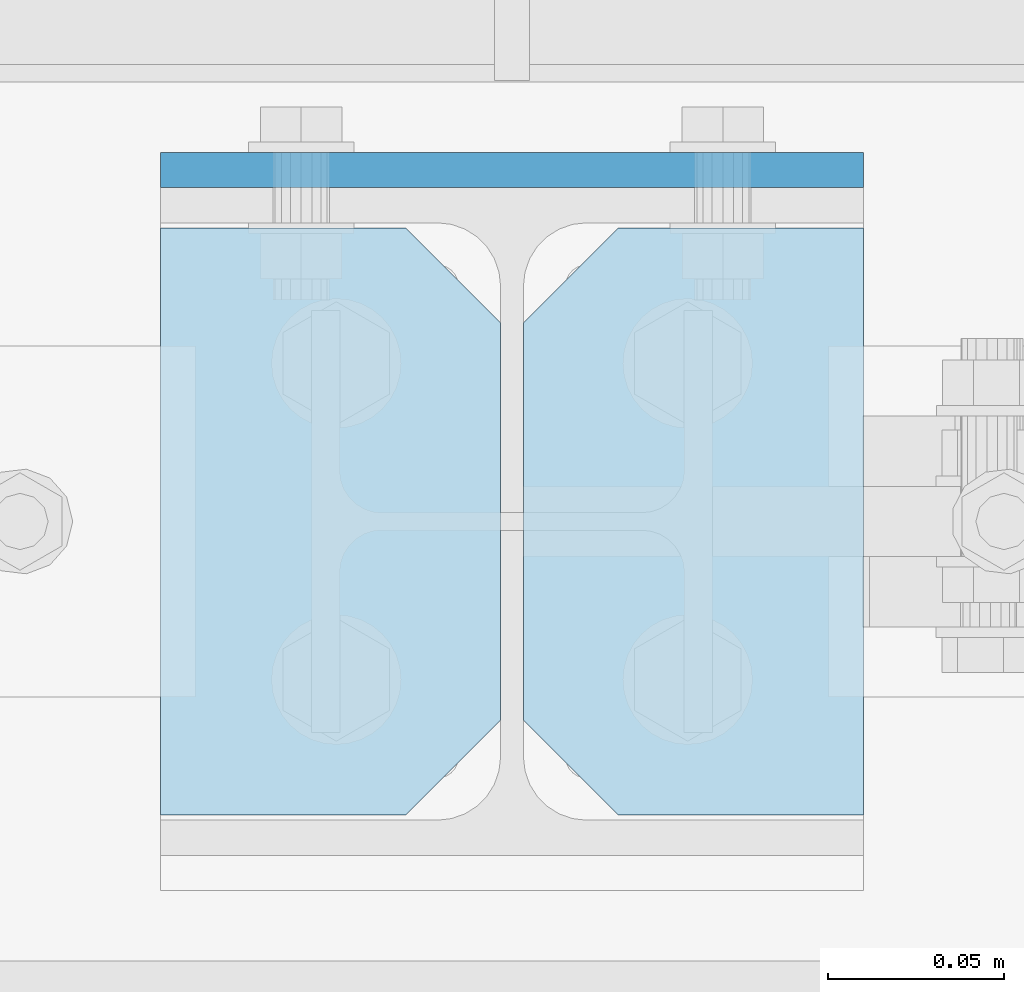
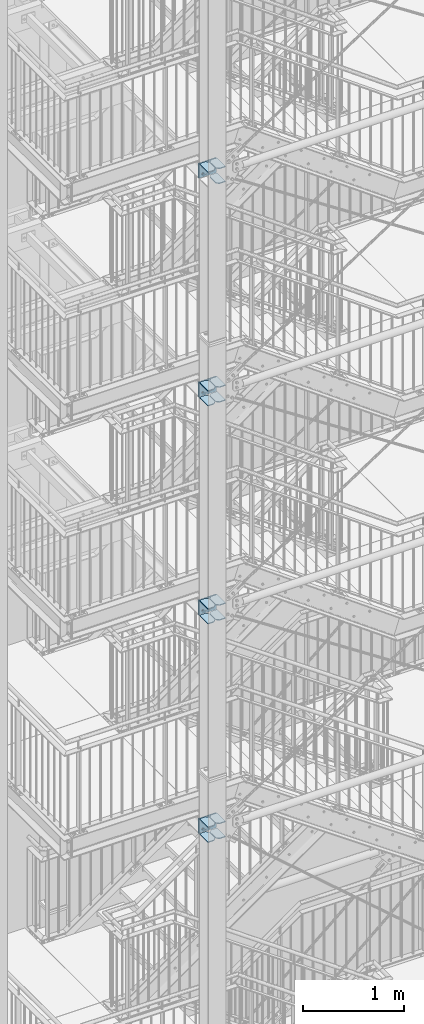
# One storey, part 150 of 825: 19 plates, 62 openings.
"""IFC2X3 building model written with IfcOpenShell, lengths in millimetres."""

from ifc_helpers import new_model, entity, si_unit, converted_unit, frame, origin, origin_with_axes, origin_2d_with_axis, place, context, project, spatial, polyline, circle, outline, extrude, material, layer, layer_set, element, save


model = new_model("IFC2X3")

# Units and contexts
model_context = context("Model", 3, precision=1e-09, world=origin_with_axes())
ifc_project = project(units=[si_unit("LENGTHUNIT", "METRE", prefix="MILLI"), si_unit("AREAUNIT", "SQUARE_METRE"), si_unit("VOLUMEUNIT", "CUBIC_METRE"), converted_unit("PLANEANGLEUNIT", "DEGREE", entity("IfcPlaneAngleMeasure", 0.01745329), si_unit("PLANEANGLEUNIT", "RADIAN"), dimensions=[0, 0, 0, 0, 0, 0, 0])], contexts=[model_context])

# Site, building, storey
site_placement = place(None, origin_with_axes())
site = spatial("IfcSite", under=ifc_project, at=site_placement, Name="Cnopf'sche Kinderklinik", CompositionType="ELEMENT")
building_placement = place(site_placement, origin_with_axes())
building = spatial("IfcBuilding", under=site, at=building_placement, Name="Struktur 1", CompositionType="ELEMENT")
storey_placement = place(building_placement, origin_with_axes())
storey = spatial("IfcBuildingStorey", under=building, at=storey_placement, Name="Default Storey", CompositionType="ELEMENT", Elevation=0.0)

# Plate, openings
ifc_material = material(Name="S235JR")
ifc_layer = layer(ifc_material, 10.0)
ifc_layer_set = layer_set([ifc_layer], Name="S235JR")
plate_1_placement = place(None, frame((4856.713402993, 4471.736971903, 6985.0), z_axis=(0.0, -1.0, 0.0), x_axis=(0.0, 0.0, -1.0)))
plate_1 = element("IfcPlate", 1, at=plate_1_placement, inside=storey, material=ifc_layer_set, Name="Endplate", ObjectType="Endplate", context=model_context, shape_type="SweptSolid", body=[
    extrude(outline(polyline([(-90.0, -100.0), (90.0, -100.0), (90.0, 100.0), (-90.0, 100.0), (-90.0, -100.0)])), origin_with_axes(), (0.0, 0.0, 1.0), 10.0),
])
opening_1_placement = place(plate_1_placement, frame((-67.0, -21.25, 10.5), z_axis=(0.0, 0.0, -1.0), x_axis=(1.0, 0.0, 0.0)))
element("IfcOpeningElement", 2, at=opening_1_placement, cuts=plate_1, ObjectType="Opening", context=model_context, shape_type="SweptSolid", body=[
    extrude(circle(Radius=6.001, at=origin_2d_with_axis()), origin(), (0.0, 0.0, 1.0), 11.0),
])
opening_2_placement = place(plate_1_placement, frame((67.0, -21.25, 10.5), z_axis=(0.0, 0.0, -1.0), x_axis=(1.0, 0.0, 0.0)))
element("IfcOpeningElement", 3, at=opening_2_placement, cuts=plate_1, ObjectType="Opening", context=model_context, shape_type="SweptSolid", body=[
    extrude(circle(Radius=6.001, at=origin_2d_with_axis()), origin(), (0.0, 0.0, 1.0), 11.0),
])
opening_3_placement = place(plate_1_placement, frame((67.0, 21.25, 10.5), z_axis=(0.0, 0.0, -1.0), x_axis=(1.0, 0.0, 0.0)))
element("IfcOpeningElement", 4, at=opening_3_placement, cuts=plate_1, ObjectType="Opening", context=model_context, shape_type="SweptSolid", body=[
    extrude(circle(Radius=6.001, at=origin_2d_with_axis()), origin(), (0.0, 0.0, 1.0), 11.0),
])
opening_4_placement = place(plate_1_placement, frame((-67.0, 21.25, 10.5), z_axis=(0.0, 0.0, -1.0), x_axis=(1.0, 0.0, 0.0)))
element("IfcOpeningElement", 5, at=opening_4_placement, cuts=plate_1, ObjectType="Opening", context=model_context, shape_type="SweptSolid", body=[
    extrude(circle(Radius=6.001, at=origin_2d_with_axis()), origin(), (0.0, 0.0, 1.0), 11.0),
])
opening_5_placement = place(plate_1_placement, frame((-45.0, 60.0, 10.5), z_axis=(0.0, 0.0, -1.0), x_axis=(0.0, 1.0, 0.0)))
element("IfcOpeningElement", 6, at=opening_5_placement, cuts=plate_1, ObjectType="Opening", context=model_context, shape_type="SweptSolid", body=[
    extrude(circle(Radius=9.001, at=origin_2d_with_axis()), origin(), (0.0, 0.0, 1.0), 11.0),
])
opening_6_placement = place(plate_1_placement, frame((45.0, 60.0, 10.5), z_axis=(0.0, 0.0, -1.0), x_axis=(0.0, 1.0, 0.0)))
element("IfcOpeningElement", 7, at=opening_6_placement, cuts=plate_1, ObjectType="Opening", context=model_context, shape_type="SweptSolid", body=[
    extrude(circle(Radius=9.001, at=origin_2d_with_axis()), origin(), (0.0, 0.0, 1.0), 11.0),
])
opening_7_placement = place(plate_1_placement, frame((-45.0, -60.0, 10.5), z_axis=(0.0, 0.0, -1.0), x_axis=(0.0, -1.0, 0.0)))
element("IfcOpeningElement", 8, at=opening_7_placement, cuts=plate_1, ObjectType="Opening", context=model_context, shape_type="SweptSolid", body=[
    extrude(circle(Radius=9.001, at=origin_2d_with_axis()), origin(), (0.0, 0.0, 1.0), 11.0),
])
opening_8_placement = place(plate_1_placement, frame((45.0, -60.0, 10.5), z_axis=(0.0, 0.0, -1.0), x_axis=(0.0, -1.0, 0.0)))
element("IfcOpeningElement", 9, at=opening_8_placement, cuts=plate_1, ObjectType="Opening", context=model_context, shape_type="SweptSolid", body=[
    extrude(circle(Radius=9.001, at=origin_2d_with_axis()), origin(), (0.0, 0.0, 1.0), 11.0),
])

plate_2_placement = place(None, frame((4956.713402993, 4450.236971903, 7070.0), z_axis=(0.0, 0.0, 1.0), x_axis=(-1.0, 0.0, 0.0)))
plate_2 = element("IfcPlate", 10, at=plate_2_placement, inside=storey, material=ifc_layer_set, Name="Stiffener#1", ObjectType="Stiffener#1", context=model_context, shape_type="SweptSolid", body=[
    extrude(outline(polyline([(0.0, 0.0), (96.75, 0.0), (96.75, 167.0), (0.0, 167.0), (0.0, 0.0)])), origin_with_axes(), (0.0, 0.0, 1.0), 10.0),
])
opening_9_placement = place(plate_2_placement, frame((0.0, 0.0, -0.01), z_axis=(0.0, 0.0, 1.0), x_axis=(1.0, 0.0, 0.0)))
element("IfcOpeningElement", 11, at=opening_9_placement, cuts=plate_2, ObjectType="Opening", context=model_context, shape_type="SweptSolid", body=[
    extrude(outline(polyline([(96.75, 167.0), (69.75, 167.0), (96.75, 140.0), (96.75, 167.0)])), origin(), (0.0, 0.0, 1.0), 10.02),
])
opening_10_placement = place(plate_2_placement, frame((0.0, 0.0, -0.01), z_axis=(0.0, 0.0, 1.0), x_axis=(1.0, 0.0, 0.0)))
element("IfcOpeningElement", 12, at=opening_10_placement, cuts=plate_2, ObjectType="Opening", context=model_context, shape_type="SweptSolid", body=[
    extrude(outline(polyline([(96.75, 0.0), (96.75, 27.0), (69.75, 0.0), (96.75, 0.0)])), origin(), (0.0, 0.0, 1.0), 10.02),
])

plate_3_placement = place(None, frame((4853.463402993, 4450.236971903, 7070.0), z_axis=(0.0, 0.0, 1.0), x_axis=(-1.0, 0.0, 0.0)))
plate_3 = element("IfcPlate", 13, at=plate_3_placement, inside=storey, material=ifc_layer_set, Name="Stiffener#2", ObjectType="Stiffener#2", context=model_context, shape_type="SweptSolid", body=[
    extrude(outline(polyline([(0.0, 0.0), (96.75, 0.0), (96.75, 167.0), (0.0, 167.0), (0.0, 0.0)])), origin_with_axes(), (0.0, 0.0, 1.0), 10.0),
])
opening_11_placement = place(plate_3_placement, frame((0.0, 0.0, -0.01), z_axis=(0.0, 0.0, 1.0), x_axis=(1.0, 0.0, 0.0)))
element("IfcOpeningElement", 14, at=opening_11_placement, cuts=plate_3, ObjectType="Opening", context=model_context, shape_type="SweptSolid", body=[
    extrude(outline(polyline([(0.0, 167.0), (0.0, 140.0), (27.0, 167.0), (0.0, 167.0)])), origin(), (0.0, 0.0, 1.0), 10.02),
])
opening_12_placement = place(plate_3_placement, frame((0.0, 0.0, -0.01), z_axis=(0.0, 0.0, 1.0), x_axis=(1.0, 0.0, 0.0)))
element("IfcOpeningElement", 15, at=opening_12_placement, cuts=plate_3, ObjectType="Opening", context=model_context, shape_type="SweptSolid", body=[
    extrude(outline(polyline([(0.0, 0.0), (27.0, 0.0), (0.0, 27.0), (0.0, 0.0)])), origin(), (0.0, 0.0, 1.0), 10.02),
])

plate_4_placement = place(None, frame((4859.963402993, 4450.236971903, 6900.0), z_axis=(0.0, 0.0, -1.0), x_axis=(1.0, 0.0, 0.0)))
plate_4 = element("IfcPlate", 16, at=plate_4_placement, inside=storey, material=ifc_layer_set, Name="Stiffener#3", ObjectType="Stiffener#3", context=model_context, shape_type="SweptSolid", body=[
    extrude(outline(polyline([(0.0, 0.0), (96.75, 0.0), (96.75, 167.0), (0.0, 167.0), (0.0, 0.0)])), origin_with_axes(), (0.0, 0.0, 1.0), 10.0),
])
opening_13_placement = place(plate_4_placement, frame((0.0, 0.0, -0.01), z_axis=(0.0, 0.0, 1.0), x_axis=(1.0, 0.0, 0.0)))
element("IfcOpeningElement", 17, at=opening_13_placement, cuts=plate_4, ObjectType="Opening", context=model_context, shape_type="SweptSolid", body=[
    extrude(outline(polyline([(0.0, 167.0), (0.0, 140.0), (27.0, 167.0), (0.0, 167.0)])), origin(), (0.0, 0.0, 1.0), 10.02),
])
opening_14_placement = place(plate_4_placement, frame((0.0, 0.0, -0.01), z_axis=(0.0, 0.0, 1.0), x_axis=(1.0, 0.0, 0.0)))
element("IfcOpeningElement", 18, at=opening_14_placement, cuts=plate_4, ObjectType="Opening", context=model_context, shape_type="SweptSolid", body=[
    extrude(outline(polyline([(0.0, 0.0), (27.0, 0.0), (0.0, 27.0), (0.0, 0.0)])), origin(), (0.0, 0.0, 1.0), 10.02),
])

plate_5_placement = place(None, frame((4756.713402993, 4450.236971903, 6900.0), z_axis=(0.0, 0.0, -1.0), x_axis=(1.0, 0.0, 0.0)))
plate_5 = element("IfcPlate", 19, at=plate_5_placement, inside=storey, material=ifc_layer_set, Name="Stiffener#4", ObjectType="Stiffener#4", context=model_context, shape_type="SweptSolid", body=[
    extrude(outline(polyline([(0.0, 0.0), (96.75, 0.0), (96.75, 167.0), (0.0, 167.0), (0.0, 0.0)])), origin_with_axes(), (0.0, 0.0, 1.0), 10.0),
])
opening_15_placement = place(plate_5_placement, frame((0.0, 0.0, -0.01), z_axis=(0.0, 0.0, 1.0), x_axis=(1.0, 0.0, 0.0)))
element("IfcOpeningElement", 20, at=opening_15_placement, cuts=plate_5, ObjectType="Opening", context=model_context, shape_type="SweptSolid", body=[
    extrude(outline(polyline([(96.75, 167.0), (69.75, 167.0), (96.75, 140.0), (96.75, 167.0)])), origin(), (0.0, 0.0, 1.0), 10.02),
])
opening_16_placement = place(plate_5_placement, frame((0.0, 0.0, -0.01), z_axis=(0.0, 0.0, 1.0), x_axis=(1.0, 0.0, 0.0)))
element("IfcOpeningElement", 21, at=opening_16_placement, cuts=plate_5, ObjectType="Opening", context=model_context, shape_type="SweptSolid", body=[
    extrude(outline(polyline([(96.75, 0.0), (96.75, 27.0), (69.75, 0.0), (96.75, 0.0)])), origin(), (0.0, 0.0, 1.0), 10.02),
])

plate_6_placement = place(None, frame((4856.713402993, 4471.736971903, 9617.0), z_axis=(0.0, -1.0, 0.0), x_axis=(0.0, 0.0, -1.0)))
plate_6 = element("IfcPlate", 22, at=plate_6_placement, inside=storey, material=ifc_layer_set, Name="Endplate", ObjectType="Endplate", context=model_context, shape_type="SweptSolid", body=[
    extrude(outline(polyline([(-90.0, -100.0), (90.0, -100.0), (90.0, 100.0), (-90.0, 100.0), (-90.0, -100.0)])), origin_with_axes(), (0.0, 0.0, 1.0), 10.0),
])
opening_17_placement = place(plate_6_placement, frame((-67.0, -21.25, 10.5), z_axis=(0.0, 0.0, -1.0), x_axis=(1.0, 0.0, 0.0)))
element("IfcOpeningElement", 23, at=opening_17_placement, cuts=plate_6, ObjectType="Opening", context=model_context, shape_type="SweptSolid", body=[
    extrude(circle(Radius=6.001, at=origin_2d_with_axis()), origin(), (0.0, 0.0, 1.0), 11.0),
])
opening_18_placement = place(plate_6_placement, frame((67.0, -21.25, 10.5), z_axis=(0.0, 0.0, -1.0), x_axis=(1.0, 0.0, 0.0)))
element("IfcOpeningElement", 24, at=opening_18_placement, cuts=plate_6, ObjectType="Opening", context=model_context, shape_type="SweptSolid", body=[
    extrude(circle(Radius=6.001, at=origin_2d_with_axis()), origin(), (0.0, 0.0, 1.0), 11.0),
])
opening_19_placement = place(plate_6_placement, frame((67.0, 21.25, 10.5), z_axis=(0.0, 0.0, -1.0), x_axis=(1.0, 0.0, 0.0)))
element("IfcOpeningElement", 25, at=opening_19_placement, cuts=plate_6, ObjectType="Opening", context=model_context, shape_type="SweptSolid", body=[
    extrude(circle(Radius=6.001, at=origin_2d_with_axis()), origin(), (0.0, 0.0, 1.0), 11.0),
])
opening_20_placement = place(plate_6_placement, frame((-67.0, 21.25, 10.5), z_axis=(0.0, 0.0, -1.0), x_axis=(1.0, 0.0, 0.0)))
element("IfcOpeningElement", 26, at=opening_20_placement, cuts=plate_6, ObjectType="Opening", context=model_context, shape_type="SweptSolid", body=[
    extrude(circle(Radius=6.001, at=origin_2d_with_axis()), origin(), (0.0, 0.0, 1.0), 11.0),
])
opening_21_placement = place(plate_6_placement, frame((-45.0, -60.0, 10.5), z_axis=(0.0, 0.0, -1.0), x_axis=(0.0, -1.0, 0.0)))
element("IfcOpeningElement", 27, at=opening_21_placement, cuts=plate_6, ObjectType="Opening", context=model_context, shape_type="SweptSolid", body=[
    extrude(circle(Radius=9.001, at=origin_2d_with_axis()), origin(), (0.0, 0.0, 1.0), 11.0),
])
opening_22_placement = place(plate_6_placement, frame((45.0, -60.0, 10.5), z_axis=(0.0, 0.0, -1.0), x_axis=(0.0, -1.0, 0.0)))
element("IfcOpeningElement", 28, at=opening_22_placement, cuts=plate_6, ObjectType="Opening", context=model_context, shape_type="SweptSolid", body=[
    extrude(circle(Radius=9.001, at=origin_2d_with_axis()), origin(), (0.0, 0.0, 1.0), 11.0),
])
opening_23_placement = place(plate_6_placement, frame((45.0, 60.0, 10.5), z_axis=(0.0, 0.0, -1.0), x_axis=(0.0, 1.0, 0.0)))
element("IfcOpeningElement", 29, at=opening_23_placement, cuts=plate_6, ObjectType="Opening", context=model_context, shape_type="SweptSolid", body=[
    extrude(circle(Radius=9.001, at=origin_2d_with_axis()), origin(), (0.0, 0.0, 1.0), 11.0),
])
opening_24_placement = place(plate_6_placement, frame((-45.0, 60.0, 10.5), z_axis=(0.0, 0.0, -1.0), x_axis=(0.0, 1.0, 0.0)))
element("IfcOpeningElement", 30, at=opening_24_placement, cuts=plate_6, ObjectType="Opening", context=model_context, shape_type="SweptSolid", body=[
    extrude(circle(Radius=9.001, at=origin_2d_with_axis()), origin(), (0.0, 0.0, 1.0), 11.0),
])

plate_7_placement = place(None, frame((4956.713402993, 4450.236971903, 9702.0), z_axis=(0.0, 0.0, 1.0), x_axis=(-1.0, 0.0, 0.0)))
plate_7 = element("IfcPlate", 31, at=plate_7_placement, inside=storey, material=ifc_layer_set, Name="Stiffener#1", ObjectType="Stiffener#1", context=model_context, shape_type="SweptSolid", body=[
    extrude(outline(polyline([(0.0, 0.0), (96.75, 0.0), (96.75, 167.0), (0.0, 167.0), (0.0, 0.0)])), origin_with_axes(), (0.0, 0.0, 1.0), 10.0),
])
opening_25_placement = place(plate_7_placement, frame((0.0, 0.0, -0.01), z_axis=(0.0, 0.0, 1.0), x_axis=(1.0, 0.0, 0.0)))
element("IfcOpeningElement", 32, at=opening_25_placement, cuts=plate_7, ObjectType="Opening", context=model_context, shape_type="SweptSolid", body=[
    extrude(outline(polyline([(96.75, 167.0), (69.75, 167.0), (96.75, 140.0), (96.75, 167.0)])), origin(), (0.0, 0.0, 1.0), 10.02),
])
opening_26_placement = place(plate_7_placement, frame((0.0, 0.0, -0.01), z_axis=(0.0, 0.0, 1.0), x_axis=(1.0, 0.0, 0.0)))
element("IfcOpeningElement", 33, at=opening_26_placement, cuts=plate_7, ObjectType="Opening", context=model_context, shape_type="SweptSolid", body=[
    extrude(outline(polyline([(96.75, 0.0), (96.75, 27.0), (69.75, 0.0), (96.75, 0.0)])), origin(), (0.0, 0.0, 1.0), 10.02),
])

plate_8_placement = place(None, frame((4853.463402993, 4450.236971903, 9702.0), z_axis=(0.0, 0.0, 1.0), x_axis=(-1.0, 0.0, 0.0)))
plate_8 = element("IfcPlate", 34, at=plate_8_placement, inside=storey, material=ifc_layer_set, Name="Stiffener#2", ObjectType="Stiffener#2", context=model_context, shape_type="SweptSolid", body=[
    extrude(outline(polyline([(0.0, 0.0), (96.75, 0.0), (96.75, 167.0), (0.0, 167.0), (0.0, 0.0)])), origin_with_axes(), (0.0, 0.0, 1.0), 10.0),
])
opening_27_placement = place(plate_8_placement, frame((0.0, 0.0, -0.01), z_axis=(0.0, 0.0, 1.0), x_axis=(1.0, 0.0, 0.0)))
element("IfcOpeningElement", 35, at=opening_27_placement, cuts=plate_8, ObjectType="Opening", context=model_context, shape_type="SweptSolid", body=[
    extrude(outline(polyline([(0.0, 167.0), (0.0, 140.0), (27.0, 167.0), (0.0, 167.0)])), origin(), (0.0, 0.0, 1.0), 10.02),
])
opening_28_placement = place(plate_8_placement, frame((0.0, 0.0, -0.01), z_axis=(0.0, 0.0, 1.0), x_axis=(1.0, 0.0, 0.0)))
element("IfcOpeningElement", 36, at=opening_28_placement, cuts=plate_8, ObjectType="Opening", context=model_context, shape_type="SweptSolid", body=[
    extrude(outline(polyline([(0.0, 0.0), (27.0, 0.0), (0.0, 27.0), (0.0, 0.0)])), origin(), (0.0, 0.0, 1.0), 10.02),
])

plate_9_placement = place(None, frame((4859.963402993, 4450.236971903, 9532.0), z_axis=(0.0, 0.0, -1.0), x_axis=(1.0, 0.0, 0.0)))
plate_9 = element("IfcPlate", 37, at=plate_9_placement, inside=storey, material=ifc_layer_set, Name="Stiffener#3", ObjectType="Stiffener#3", context=model_context, shape_type="SweptSolid", body=[
    extrude(outline(polyline([(0.0, 0.0), (96.75, 0.0), (96.75, 167.0), (0.0, 167.0), (0.0, 0.0)])), origin_with_axes(), (0.0, 0.0, 1.0), 10.0),
])
opening_29_placement = place(plate_9_placement, frame((0.0, 0.0, -0.01), z_axis=(0.0, 0.0, 1.0), x_axis=(1.0, 0.0, 0.0)))
element("IfcOpeningElement", 38, at=opening_29_placement, cuts=plate_9, ObjectType="Opening", context=model_context, shape_type="SweptSolid", body=[
    extrude(outline(polyline([(0.0, 167.0), (0.0, 140.0), (27.0, 167.0), (0.0, 167.0)])), origin(), (0.0, 0.0, 1.0), 10.02),
])
opening_30_placement = place(plate_9_placement, frame((0.0, 0.0, -0.01), z_axis=(0.0, 0.0, 1.0), x_axis=(1.0, 0.0, 0.0)))
element("IfcOpeningElement", 39, at=opening_30_placement, cuts=plate_9, ObjectType="Opening", context=model_context, shape_type="SweptSolid", body=[
    extrude(outline(polyline([(0.0, 0.0), (27.0, 0.0), (0.0, 27.0), (0.0, 0.0)])), origin(), (0.0, 0.0, 1.0), 10.02),
])

plate_10_placement = place(None, frame((4756.713402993, 4450.236971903, 9532.0), z_axis=(0.0, 0.0, -1.0), x_axis=(1.0, 0.0, 0.0)))
plate_10 = element("IfcPlate", 40, at=plate_10_placement, inside=storey, material=ifc_layer_set, Name="Stiffener#4", ObjectType="Stiffener#4", context=model_context, shape_type="SweptSolid", body=[
    extrude(outline(polyline([(0.0, 0.0), (96.75, 0.0), (96.75, 167.0), (0.0, 167.0), (0.0, 0.0)])), origin_with_axes(), (0.0, 0.0, 1.0), 10.0),
])
opening_31_placement = place(plate_10_placement, frame((0.0, 0.0, -0.01), z_axis=(0.0, 0.0, 1.0), x_axis=(1.0, 0.0, 0.0)))
element("IfcOpeningElement", 41, at=opening_31_placement, cuts=plate_10, ObjectType="Opening", context=model_context, shape_type="SweptSolid", body=[
    extrude(outline(polyline([(96.75, 167.0), (69.75, 167.0), (96.75, 140.0), (96.75, 167.0)])), origin(), (0.0, 0.0, 1.0), 10.02),
])
opening_32_placement = place(plate_10_placement, frame((0.0, 0.0, -0.01), z_axis=(0.0, 0.0, 1.0), x_axis=(1.0, 0.0, 0.0)))
element("IfcOpeningElement", 42, at=opening_32_placement, cuts=plate_10, ObjectType="Opening", context=model_context, shape_type="SweptSolid", body=[
    extrude(outline(polyline([(96.75, 0.0), (96.75, 27.0), (69.75, 0.0), (96.75, 0.0)])), origin(), (0.0, 0.0, 1.0), 10.02),
])

plate_11_placement = place(None, frame((4856.713402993, 4471.736971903, 12244.0), z_axis=(0.0, -1.0, 0.0), x_axis=(0.0, 0.0, -1.0)))
plate_11 = element("IfcPlate", 43, at=plate_11_placement, inside=storey, material=ifc_layer_set, Name="Endplate", ObjectType="Endplate", context=model_context, shape_type="SweptSolid", body=[
    extrude(outline(polyline([(-90.0, -100.0), (90.0, -100.0), (90.0, 100.0), (-90.0, 100.0), (-90.0, -100.0)])), origin_with_axes(), (0.0, 0.0, 1.0), 10.0),
])
opening_33_placement = place(plate_11_placement, frame((-67.0, -21.25, 10.5), z_axis=(0.0, 0.0, -1.0), x_axis=(1.0, 0.0, 0.0)))
element("IfcOpeningElement", 44, at=opening_33_placement, cuts=plate_11, ObjectType="Opening", context=model_context, shape_type="SweptSolid", body=[
    extrude(circle(Radius=6.001, at=origin_2d_with_axis()), origin(), (0.0, 0.0, 1.0), 11.0),
])
opening_34_placement = place(plate_11_placement, frame((67.0, -21.25, 10.5), z_axis=(0.0, 0.0, -1.0), x_axis=(1.0, 0.0, 0.0)))
element("IfcOpeningElement", 45, at=opening_34_placement, cuts=plate_11, ObjectType="Opening", context=model_context, shape_type="SweptSolid", body=[
    extrude(circle(Radius=6.001, at=origin_2d_with_axis()), origin(), (0.0, 0.0, 1.0), 11.0),
])
opening_35_placement = place(plate_11_placement, frame((67.0, 21.25, 10.5), z_axis=(0.0, 0.0, -1.0), x_axis=(1.0, 0.0, 0.0)))
element("IfcOpeningElement", 46, at=opening_35_placement, cuts=plate_11, ObjectType="Opening", context=model_context, shape_type="SweptSolid", body=[
    extrude(circle(Radius=6.001, at=origin_2d_with_axis()), origin(), (0.0, 0.0, 1.0), 11.0),
])
opening_36_placement = place(plate_11_placement, frame((-67.0, 21.25, 10.5), z_axis=(0.0, 0.0, -1.0), x_axis=(1.0, 0.0, 0.0)))
element("IfcOpeningElement", 47, at=opening_36_placement, cuts=plate_11, ObjectType="Opening", context=model_context, shape_type="SweptSolid", body=[
    extrude(circle(Radius=6.001, at=origin_2d_with_axis()), origin(), (0.0, 0.0, 1.0), 11.0),
])
opening_37_placement = place(plate_11_placement, frame((-45.0, -60.0, 10.5), z_axis=(0.0, 0.0, -1.0), x_axis=(0.0, -1.0, 0.0)))
element("IfcOpeningElement", 48, at=opening_37_placement, cuts=plate_11, ObjectType="Opening", context=model_context, shape_type="SweptSolid", body=[
    extrude(circle(Radius=9.001, at=origin_2d_with_axis()), origin(), (0.0, 0.0, 1.0), 11.0),
])
opening_38_placement = place(plate_11_placement, frame((-45.0, 60.0, 10.5), z_axis=(0.0, 0.0, -1.0), x_axis=(0.0, 1.0, 0.0)))
element("IfcOpeningElement", 49, at=opening_38_placement, cuts=plate_11, ObjectType="Opening", context=model_context, shape_type="SweptSolid", body=[
    extrude(circle(Radius=9.001, at=origin_2d_with_axis()), origin(), (0.0, 0.0, 1.0), 11.0),
])
opening_39_placement = place(plate_11_placement, frame((45.0, 60.0, 10.5), z_axis=(0.0, 0.0, -1.0), x_axis=(0.0, 1.0, 0.0)))
element("IfcOpeningElement", 50, at=opening_39_placement, cuts=plate_11, ObjectType="Opening", context=model_context, shape_type="SweptSolid", body=[
    extrude(circle(Radius=9.001, at=origin_2d_with_axis()), origin(), (0.0, 0.0, 1.0), 11.0),
])
opening_40_placement = place(plate_11_placement, frame((45.0, -60.0, 10.5), z_axis=(0.0, 0.0, -1.0), x_axis=(0.0, -1.0, 0.0)))
element("IfcOpeningElement", 51, at=opening_40_placement, cuts=plate_11, ObjectType="Opening", context=model_context, shape_type="SweptSolid", body=[
    extrude(circle(Radius=9.001, at=origin_2d_with_axis()), origin(), (0.0, 0.0, 1.0), 11.0),
])

plate_12_placement = place(None, frame((4956.713402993, 4450.236971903, 12329.0), z_axis=(0.0, 0.0, 1.0), x_axis=(-1.0, 0.0, 0.0)))
plate_12 = element("IfcPlate", 52, at=plate_12_placement, inside=storey, material=ifc_layer_set, Name="Stiffener#1", ObjectType="Stiffener#1", context=model_context, shape_type="SweptSolid", body=[
    extrude(outline(polyline([(0.0, 0.0), (96.75, 0.0), (96.75, 167.0), (0.0, 167.0), (0.0, 0.0)])), origin_with_axes(), (0.0, 0.0, 1.0), 10.0),
])
opening_41_placement = place(plate_12_placement, frame((0.0, 0.0, -0.01), z_axis=(0.0, 0.0, 1.0), x_axis=(1.0, 0.0, 0.0)))
element("IfcOpeningElement", 53, at=opening_41_placement, cuts=plate_12, ObjectType="Opening", context=model_context, shape_type="SweptSolid", body=[
    extrude(outline(polyline([(96.75, 167.0), (69.75, 167.0), (96.75, 140.0), (96.75, 167.0)])), origin(), (0.0, 0.0, 1.0), 10.02),
])
opening_42_placement = place(plate_12_placement, frame((0.0, 0.0, -0.01), z_axis=(0.0, 0.0, 1.0), x_axis=(1.0, 0.0, 0.0)))
element("IfcOpeningElement", 54, at=opening_42_placement, cuts=plate_12, ObjectType="Opening", context=model_context, shape_type="SweptSolid", body=[
    extrude(outline(polyline([(96.75, 0.0), (96.75, 27.0), (69.75, 0.0), (96.75, 0.0)])), origin(), (0.0, 0.0, 1.0), 10.02),
])

plate_13_placement = place(None, frame((4853.463402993, 4450.236971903, 12329.0), z_axis=(0.0, 0.0, 1.0), x_axis=(-1.0, 0.0, 0.0)))
plate_13 = element("IfcPlate", 55, at=plate_13_placement, inside=storey, material=ifc_layer_set, Name="Stiffener#2", ObjectType="Stiffener#2", context=model_context, shape_type="SweptSolid", body=[
    extrude(outline(polyline([(0.0, 0.0), (96.75, 0.0), (96.75, 167.0), (0.0, 167.0), (0.0, 0.0)])), origin_with_axes(), (0.0, 0.0, 1.0), 10.0),
])
opening_43_placement = place(plate_13_placement, frame((0.0, 0.0, -0.01), z_axis=(0.0, 0.0, 1.0), x_axis=(1.0, 0.0, 0.0)))
element("IfcOpeningElement", 56, at=opening_43_placement, cuts=plate_13, ObjectType="Opening", context=model_context, shape_type="SweptSolid", body=[
    extrude(outline(polyline([(0.0, 167.0), (0.0, 140.0), (27.0, 167.0), (0.0, 167.0)])), origin(), (0.0, 0.0, 1.0), 10.02),
])
opening_44_placement = place(plate_13_placement, frame((0.0, 0.0, -0.01), z_axis=(0.0, 0.0, 1.0), x_axis=(1.0, 0.0, 0.0)))
element("IfcOpeningElement", 57, at=opening_44_placement, cuts=plate_13, ObjectType="Opening", context=model_context, shape_type="SweptSolid", body=[
    extrude(outline(polyline([(0.0, 0.0), (27.0, 0.0), (0.0, 27.0), (0.0, 0.0)])), origin(), (0.0, 0.0, 1.0), 10.02),
])

plate_14_placement = place(None, frame((4859.963402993, 4450.236971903, 12159.0), z_axis=(0.0, 0.0, -1.0), x_axis=(1.0, 0.0, 0.0)))
plate_14 = element("IfcPlate", 58, at=plate_14_placement, inside=storey, material=ifc_layer_set, Name="Stiffener#3", ObjectType="Stiffener#3", context=model_context, shape_type="SweptSolid", body=[
    extrude(outline(polyline([(0.0, 0.0), (96.75, 0.0), (96.75, 167.0), (0.0, 167.0), (0.0, 0.0)])), origin_with_axes(), (0.0, 0.0, 1.0), 10.0),
])
opening_45_placement = place(plate_14_placement, frame((0.0, 0.0, -0.01), z_axis=(0.0, 0.0, 1.0), x_axis=(1.0, 0.0, 0.0)))
element("IfcOpeningElement", 59, at=opening_45_placement, cuts=plate_14, ObjectType="Opening", context=model_context, shape_type="SweptSolid", body=[
    extrude(outline(polyline([(0.0, 167.0), (0.0, 140.0), (27.0, 167.0), (0.0, 167.0)])), origin(), (0.0, 0.0, 1.0), 10.02),
])
opening_46_placement = place(plate_14_placement, frame((0.0, 0.0, -0.01), z_axis=(0.0, 0.0, 1.0), x_axis=(1.0, 0.0, 0.0)))
element("IfcOpeningElement", 60, at=opening_46_placement, cuts=plate_14, ObjectType="Opening", context=model_context, shape_type="SweptSolid", body=[
    extrude(outline(polyline([(0.0, 0.0), (27.0, 0.0), (0.0, 27.0), (0.0, 0.0)])), origin(), (0.0, 0.0, 1.0), 10.02),
])

plate_15_placement = place(None, frame((4756.713402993, 4450.236971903, 12159.0), z_axis=(0.0, 0.0, -1.0), x_axis=(1.0, 0.0, 0.0)))
plate_15 = element("IfcPlate", 61, at=plate_15_placement, inside=storey, material=ifc_layer_set, Name="Stiffener#4", ObjectType="Stiffener#4", context=model_context, shape_type="SweptSolid", body=[
    extrude(outline(polyline([(0.0, 0.0), (96.75, 0.0), (96.75, 167.0), (0.0, 167.0), (0.0, 0.0)])), origin_with_axes(), (0.0, 0.0, 1.0), 10.0),
])
opening_47_placement = place(plate_15_placement, frame((0.0, 0.0, -0.01), z_axis=(0.0, 0.0, 1.0), x_axis=(1.0, 0.0, 0.0)))
element("IfcOpeningElement", 62, at=opening_47_placement, cuts=plate_15, ObjectType="Opening", context=model_context, shape_type="SweptSolid", body=[
    extrude(outline(polyline([(96.75, 167.0), (69.75, 167.0), (96.75, 140.0), (96.75, 167.0)])), origin(), (0.0, 0.0, 1.0), 10.02),
])
opening_48_placement = place(plate_15_placement, frame((0.0, 0.0, -0.01), z_axis=(0.0, 0.0, 1.0), x_axis=(1.0, 0.0, 0.0)))
element("IfcOpeningElement", 63, at=opening_48_placement, cuts=plate_15, ObjectType="Opening", context=model_context, shape_type="SweptSolid", body=[
    extrude(outline(polyline([(96.75, 0.0), (96.75, 27.0), (69.75, 0.0), (96.75, 0.0)])), origin(), (0.0, 0.0, 1.0), 10.02),
])

plate_16_placement = place(None, frame((4856.713402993, 4471.736971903, 14879.0), z_axis=(0.0, -1.0, 0.0), x_axis=(0.0, 0.0, -1.0)))
plate_16 = element("IfcPlate", 64, at=plate_16_placement, inside=storey, material=ifc_layer_set, Name="Endplate", ObjectType="Endplate", context=model_context, shape_type="SweptSolid", body=[
    extrude(outline(polyline([(-90.0, -100.0), (90.0, -100.0), (90.0, 100.0), (-90.0, 100.0), (-90.0, -100.0)])), origin_with_axes(), (0.0, 0.0, 1.0), 10.0),
])
opening_49_placement = place(plate_16_placement, frame((-67.0, -21.25, 10.5), z_axis=(0.0, 0.0, -1.0), x_axis=(1.0, 0.0, 0.0)))
element("IfcOpeningElement", 65, at=opening_49_placement, cuts=plate_16, ObjectType="Opening", context=model_context, shape_type="SweptSolid", body=[
    extrude(circle(Radius=6.001, at=origin_2d_with_axis()), origin(), (0.0, 0.0, 1.0), 11.0),
])
opening_50_placement = place(plate_16_placement, frame((67.0, -21.25, 10.5), z_axis=(0.0, 0.0, -1.0), x_axis=(1.0, 0.0, 0.0)))
element("IfcOpeningElement", 66, at=opening_50_placement, cuts=plate_16, ObjectType="Opening", context=model_context, shape_type="SweptSolid", body=[
    extrude(circle(Radius=6.001, at=origin_2d_with_axis()), origin(), (0.0, 0.0, 1.0), 11.0),
])
opening_51_placement = place(plate_16_placement, frame((67.0, 21.25, 10.5), z_axis=(0.0, 0.0, -1.0), x_axis=(1.0, 0.0, 0.0)))
element("IfcOpeningElement", 67, at=opening_51_placement, cuts=plate_16, ObjectType="Opening", context=model_context, shape_type="SweptSolid", body=[
    extrude(circle(Radius=6.001, at=origin_2d_with_axis()), origin(), (0.0, 0.0, 1.0), 11.0),
])
opening_52_placement = place(plate_16_placement, frame((-67.0, 21.25, 10.5), z_axis=(0.0, 0.0, -1.0), x_axis=(1.0, 0.0, 0.0)))
element("IfcOpeningElement", 68, at=opening_52_placement, cuts=plate_16, ObjectType="Opening", context=model_context, shape_type="SweptSolid", body=[
    extrude(circle(Radius=6.001, at=origin_2d_with_axis()), origin(), (0.0, 0.0, 1.0), 11.0),
])
opening_53_placement = place(plate_16_placement, frame((-45.0, 60.0, 10.5), z_axis=(0.0, 0.0, -1.0), x_axis=(0.0, 1.0, 0.0)))
element("IfcOpeningElement", 69, at=opening_53_placement, cuts=plate_16, ObjectType="Opening", context=model_context, shape_type="SweptSolid", body=[
    extrude(circle(Radius=9.001, at=origin_2d_with_axis()), origin(), (0.0, 0.0, 1.0), 11.0),
])
opening_54_placement = place(plate_16_placement, frame((45.0, -60.0, 10.5), z_axis=(0.0, 0.0, -1.0), x_axis=(0.0, -1.0, 0.0)))
element("IfcOpeningElement", 70, at=opening_54_placement, cuts=plate_16, ObjectType="Opening", context=model_context, shape_type="SweptSolid", body=[
    extrude(circle(Radius=9.001, at=origin_2d_with_axis()), origin(), (0.0, 0.0, 1.0), 11.0),
])
opening_55_placement = place(plate_16_placement, frame((-45.0, -60.0, 10.5), z_axis=(0.0, 0.0, -1.0), x_axis=(0.0, -1.0, 0.0)))
element("IfcOpeningElement", 71, at=opening_55_placement, cuts=plate_16, ObjectType="Opening", context=model_context, shape_type="SweptSolid", body=[
    extrude(circle(Radius=9.001, at=origin_2d_with_axis()), origin(), (0.0, 0.0, 1.0), 11.0),
])
opening_56_placement = place(plate_16_placement, frame((45.0, 60.0, 10.5), z_axis=(0.0, 0.0, -1.0), x_axis=(0.0, 1.0, 0.0)))
element("IfcOpeningElement", 72, at=opening_56_placement, cuts=plate_16, ObjectType="Opening", context=model_context, shape_type="SweptSolid", body=[
    extrude(circle(Radius=9.001, at=origin_2d_with_axis()), origin(), (0.0, 0.0, 1.0), 11.0),
])

plate_17_placement = place(None, frame((4956.713402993, 4450.236971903, 14964.0), z_axis=(0.0, 0.0, 1.0), x_axis=(-1.0, 0.0, 0.0)))
plate_17 = element("IfcPlate", 73, at=plate_17_placement, inside=storey, material=ifc_layer_set, Name="Stiffener#1", ObjectType="Stiffener#1", context=model_context, shape_type="SweptSolid", body=[
    extrude(outline(polyline([(0.0, 0.0), (96.75, 0.0), (96.75, 167.0), (0.0, 167.0), (0.0, 0.0)])), origin_with_axes(), (0.0, 0.0, 1.0), 10.0),
])
opening_57_placement = place(plate_17_placement, frame((0.0, 0.0, -0.01), z_axis=(0.0, 0.0, 1.0), x_axis=(1.0, 0.0, 0.0)))
element("IfcOpeningElement", 74, at=opening_57_placement, cuts=plate_17, ObjectType="Opening", context=model_context, shape_type="SweptSolid", body=[
    extrude(outline(polyline([(96.75, 167.0), (69.75, 167.0), (96.75, 140.0), (96.75, 167.0)])), origin(), (0.0, 0.0, 1.0), 10.02),
])
opening_58_placement = place(plate_17_placement, frame((0.0, 0.0, -0.01), z_axis=(0.0, 0.0, 1.0), x_axis=(1.0, 0.0, 0.0)))
element("IfcOpeningElement", 75, at=opening_58_placement, cuts=plate_17, ObjectType="Opening", context=model_context, shape_type="SweptSolid", body=[
    extrude(outline(polyline([(96.75, 0.0), (96.75, 27.0), (69.75, 0.0), (96.75, 0.0)])), origin(), (0.0, 0.0, 1.0), 10.02),
])

plate_18_placement = place(None, frame((4853.463402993, 4450.236971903, 14964.0), z_axis=(0.0, 0.0, 1.0), x_axis=(-1.0, 0.0, 0.0)))
plate_18 = element("IfcPlate", 76, at=plate_18_placement, inside=storey, material=ifc_layer_set, Name="Stiffener#2", ObjectType="Stiffener#2", context=model_context, shape_type="SweptSolid", body=[
    extrude(outline(polyline([(0.0, 0.0), (96.75, 0.0), (96.75, 167.0), (0.0, 167.0), (0.0, 0.0)])), origin_with_axes(), (0.0, 0.0, 1.0), 10.0),
])
opening_59_placement = place(plate_18_placement, frame((0.0, 0.0, -0.01), z_axis=(0.0, 0.0, 1.0), x_axis=(1.0, 0.0, 0.0)))
element("IfcOpeningElement", 77, at=opening_59_placement, cuts=plate_18, ObjectType="Opening", context=model_context, shape_type="SweptSolid", body=[
    extrude(outline(polyline([(0.0, 167.0), (0.0, 140.0), (27.0, 167.0), (0.0, 167.0)])), origin(), (0.0, 0.0, 1.0), 10.02),
])
opening_60_placement = place(plate_18_placement, frame((0.0, 0.0, -0.01), z_axis=(0.0, 0.0, 1.0), x_axis=(1.0, 0.0, 0.0)))
element("IfcOpeningElement", 78, at=opening_60_placement, cuts=plate_18, ObjectType="Opening", context=model_context, shape_type="SweptSolid", body=[
    extrude(outline(polyline([(0.0, 0.0), (27.0, 0.0), (0.0, 27.0), (0.0, 0.0)])), origin(), (0.0, 0.0, 1.0), 10.02),
])

plate_19_placement = place(None, frame((4859.963402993, 4450.236971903, 14794.0), z_axis=(0.0, 0.0, -1.0), x_axis=(1.0, 0.0, 0.0)))
plate_19 = element("IfcPlate", 79, at=plate_19_placement, inside=storey, material=ifc_layer_set, Name="Stiffener#3", ObjectType="Stiffener#3", context=model_context, shape_type="SweptSolid", body=[
    extrude(outline(polyline([(0.0, 0.0), (96.75, 0.0), (96.75, 167.0), (0.0, 167.0), (0.0, 0.0)])), origin_with_axes(), (0.0, 0.0, 1.0), 10.0),
])
opening_61_placement = place(plate_19_placement, frame((0.0, 0.0, -0.01), z_axis=(0.0, 0.0, 1.0), x_axis=(1.0, 0.0, 0.0)))
element("IfcOpeningElement", 80, at=opening_61_placement, cuts=plate_19, ObjectType="Opening", context=model_context, shape_type="SweptSolid", body=[
    extrude(outline(polyline([(0.0, 167.0), (0.0, 140.0), (27.0, 167.0), (0.0, 167.0)])), origin(), (0.0, 0.0, 1.0), 10.02),
])
opening_62_placement = place(plate_19_placement, frame((0.0, 0.0, -0.01), z_axis=(0.0, 0.0, 1.0), x_axis=(1.0, 0.0, 0.0)))
element("IfcOpeningElement", 81, at=opening_62_placement, cuts=plate_19, ObjectType="Opening", context=model_context, shape_type="SweptSolid", body=[
    extrude(outline(polyline([(0.0, 0.0), (27.0, 0.0), (0.0, 27.0), (0.0, 0.0)])), origin(), (0.0, 0.0, 1.0), 10.02),
])

save(model, "model.ifc")
